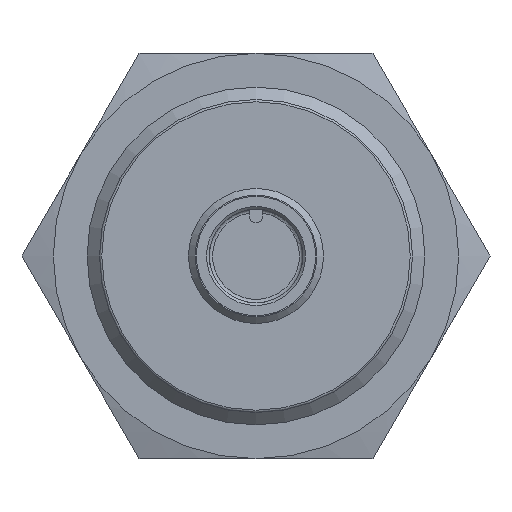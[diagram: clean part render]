
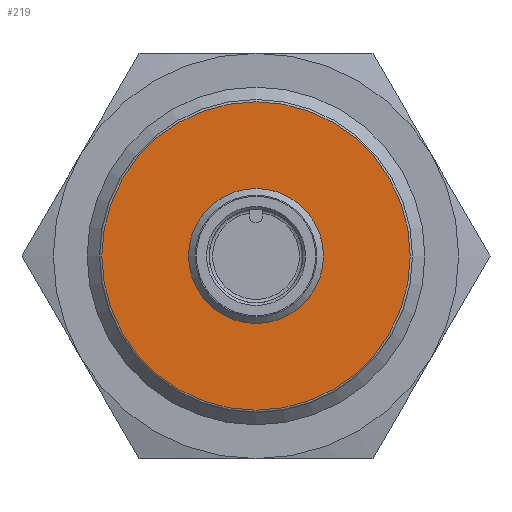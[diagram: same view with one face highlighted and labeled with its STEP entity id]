
A CAD part, left-side view. The second image highlights one B-rep face of the part: STEP entity #219.
In plain terms, the highlighted planar face has unit normal (-1, 0, 0).
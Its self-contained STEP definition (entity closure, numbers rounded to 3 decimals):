
#219 = ADVANCED_FACE( '', ( #369, #370 ), #371, .F. );
#369 = FACE_OUTER_BOUND( '', #560, .T. );
#370 = FACE_BOUND( '', #561, .T. );
#371 = PLANE( '', #562 );
#560 = EDGE_LOOP( '', ( #844 ) );
#561 = EDGE_LOOP( '', ( #845 ) );
#562 = AXIS2_PLACEMENT_3D( '', #846, #847, #848 );
#844 = ORIENTED_EDGE( '', *, *, #1126, .F. );
#845 = ORIENTED_EDGE( '', *, *, #1127, .T. );
#846 = CARTESIAN_POINT( '', ( 13., 5.95, 0. ) );
#847 = DIRECTION( '', ( 1., 0., 0. ) );
#848 = DIRECTION( '', ( 0., 0., -1. ) );
#1126 = EDGE_CURVE( '', #1287, #1287, #1288, .T. );
#1127 = EDGE_CURVE( '', #1289, #1289, #1290, .T. );
#1287 = VERTEX_POINT( '', #1691 );
#1288 = CIRCLE( '', #1692, 13.7 );
#1289 = VERTEX_POINT( '', #1693 );
#1290 = CIRCLE( '', #1694, 5.95 );
#1691 = CARTESIAN_POINT( '', ( 13., 0., -13.7 ) );
#1692 = AXIS2_PLACEMENT_3D( '', #2025, #2026, #2027 );
#1693 = CARTESIAN_POINT( '', ( 13., 0., -5.95 ) );
#1694 = AXIS2_PLACEMENT_3D( '', #2028, #2029, #2030 );
#2025 = CARTESIAN_POINT( '', ( 13., 0., 0. ) );
#2026 = DIRECTION( '', ( 1., 0., 0. ) );
#2027 = DIRECTION( '', ( 0., 0., -1. ) );
#2028 = CARTESIAN_POINT( '', ( 13., 0., 0. ) );
#2029 = DIRECTION( '', ( 1., 0., 0. ) );
#2030 = DIRECTION( '', ( 0., 0., -1. ) );
